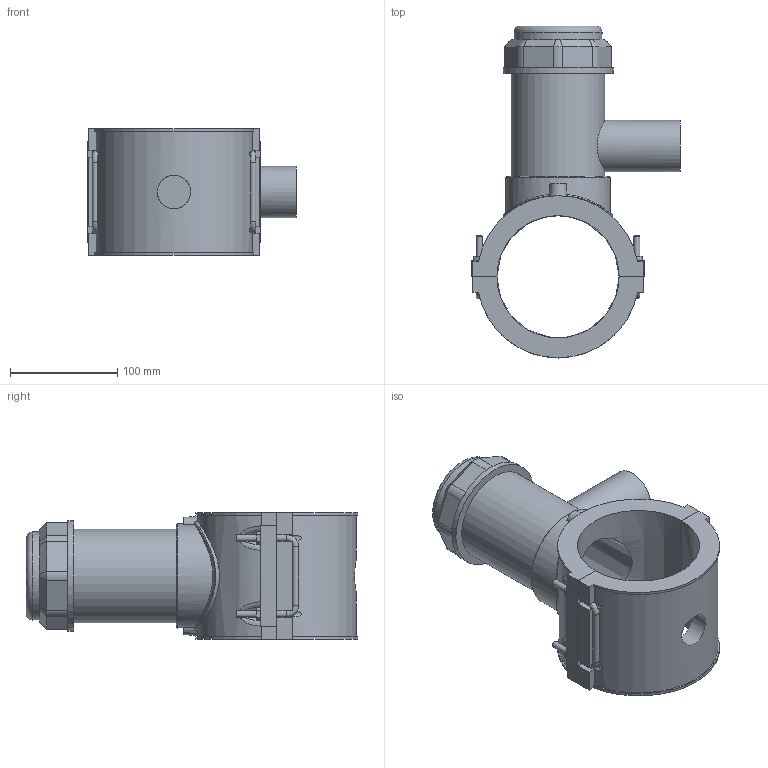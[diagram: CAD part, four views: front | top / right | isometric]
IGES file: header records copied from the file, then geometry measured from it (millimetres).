
Global section: file name: 5963BB03040015.ipt; native system: Autodesk Inventor 2019; preprocessor: unknown; author: KIM; date: 20210830.101403; units: millimetre
Bounding box: 194.55 x 309.74 x 118.11 mm (x, y, z)
Volume: 1410965.6 mm3; surface area: 234124.3 mm2
Topology: 1 solids, 3 shells, 215 faces, 569 edges, 370 vertices
Faces by surface type: plane 126, cylinder 40, revolution 28, cone 15, bspline 6
Full cylindrical faces by diameter (mm): 6 x8, 48.1 x1, 82.152 x1, 87.287 x1, 97.555 x1, 102.69 x1
